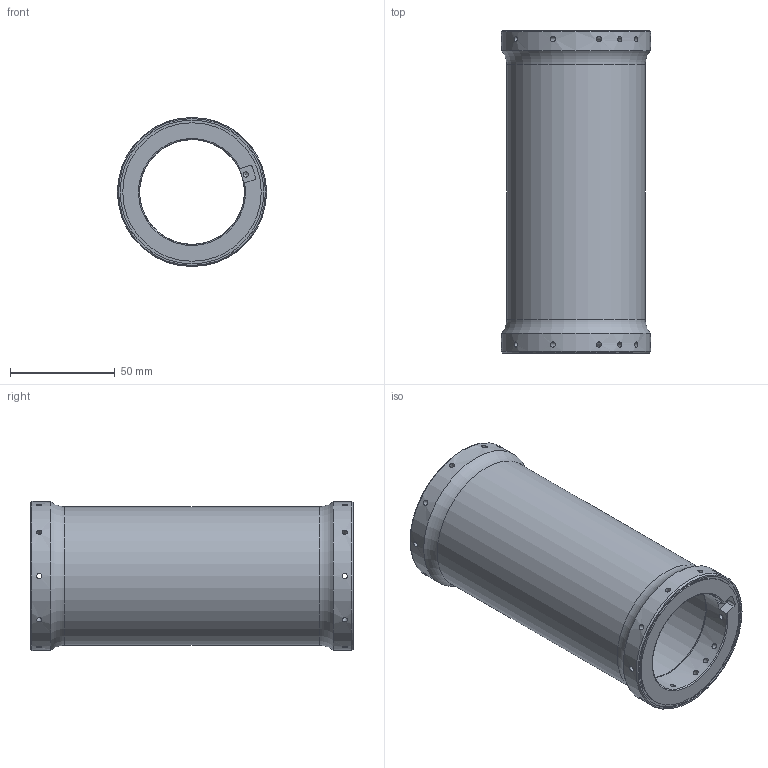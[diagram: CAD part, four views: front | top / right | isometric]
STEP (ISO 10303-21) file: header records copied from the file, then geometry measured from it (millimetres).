
FILE_DESCRIPTION (( 'STEP AP214' ), '1' );
FILE_NAME ('2-054-002 3kg媼壽誹蟀裝.STEP', '2026-05-21T03:39:46', ( 'Windows User' ), ( 'P R C' ), 'SwSTEP 2.0', 'SolidWorks 2021', '' );
FILE_SCHEMA (( 'AUTOMOTIVE_DESIGN' ));
Length unit declared in the file: millimetre
Products named in the file (1): 2-054-002 3kg媼壽誹蟀裝
Bounding box: 71 x 153.5 x 71 mm (x, y, z)
Volume: 172340.7 mm3; surface area: 65853.5 mm2
Topology: 1 solids, 1 shells, 67 faces, 170 edges, 110 vertices
Faces by surface type: cylinder 40, plane 15, torus 8, cone 4
Full cylindrical faces by diameter (mm): 2.5 x26, 50 x2, 56 x1, 66 x3, 68.5 x2, 71 x2
Entity records: 3824 total; most frequent: CARTESIAN_POINT 2084, DIRECTION 242, ORIENTED_EDGE 234, EDGE_LOOP 168, EDGE_CURVE 117, AXIS2_PLACEMENT_3D 109, FACE_OUTER_BOUND 109, VERTEX_POINT 103
